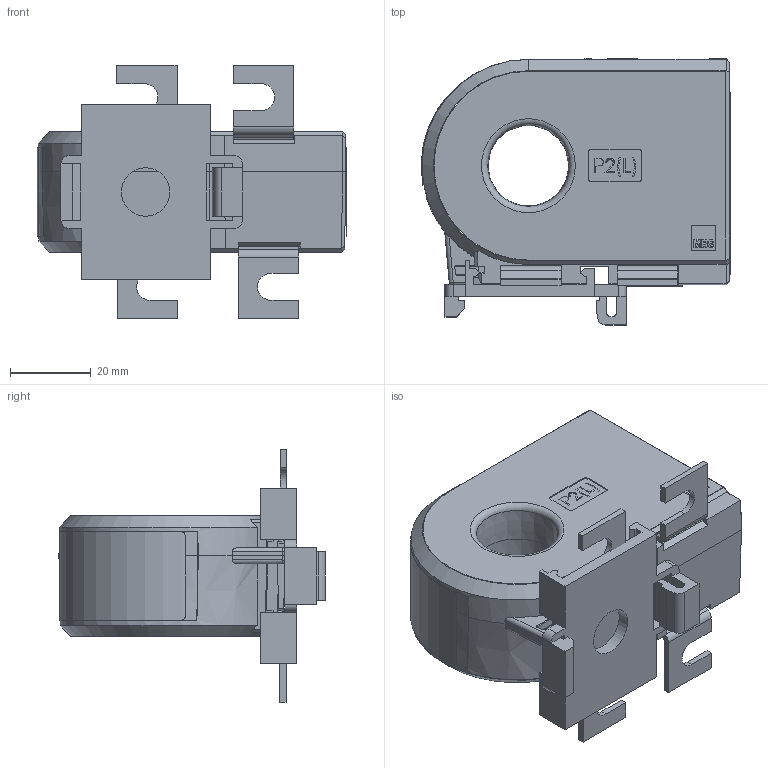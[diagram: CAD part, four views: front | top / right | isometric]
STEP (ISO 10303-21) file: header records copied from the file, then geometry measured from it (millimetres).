
FILE_DESCRIPTION(/* description */ (''),/* implementation_level */ '2;1');
FILE_NAME(/* name */ 'X:\Digidirect\CAD\Importierte Komponenten\W20x\W20x.stp',/* time_stamp */ '2015-03-13T06:38:32+01:00',/* author */ ('m.jost'),/* organization */ (''),/* preprocessor_version */ 'ST-DEVELOPER v15.6',/* originating_system */ 'Autodesk Inventor 2015',/* authorisation */ '');
FILE_SCHEMA (('AUTOMOTIVE_DESIGN { 1 0 10303 214 3 1 1 }'));
Length unit declared in the file: millimetre
Products named in the file (2): W20x_Substitute_2; W20x
Assembly tree (1 placements, depth 2):
  W20x
    W20x_Substitute_2
Bounding box: 76.77 x 66 x 62.7 mm (x, y, z)
Surface area: 27098.9 mm2 (no closed solid volume)
Topology: 0 solids, 44 shells, 286 faces, 1437 edges, 1161 vertices
Faces by surface type: plane 226, cylinder 39, cone 9, bspline 9, torus 3
Full cylindrical faces by diameter (mm): 1.3 x1, 12 x1
Entity records: 16707 total; most frequent: CARTESIAN_POINT 5844, DIRECTION 2013, ORIENTED_EDGE 2009, EDGE_CURVE 1427, VERTEX_POINT 1158, LINE 1035, VECTOR 1035, AXIS2_PLACEMENT_3D 489
